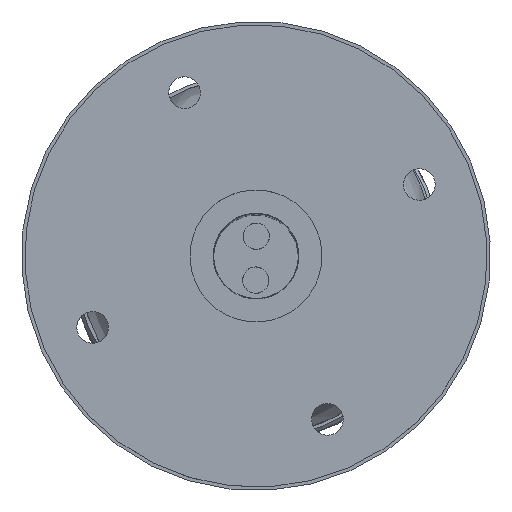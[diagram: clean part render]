
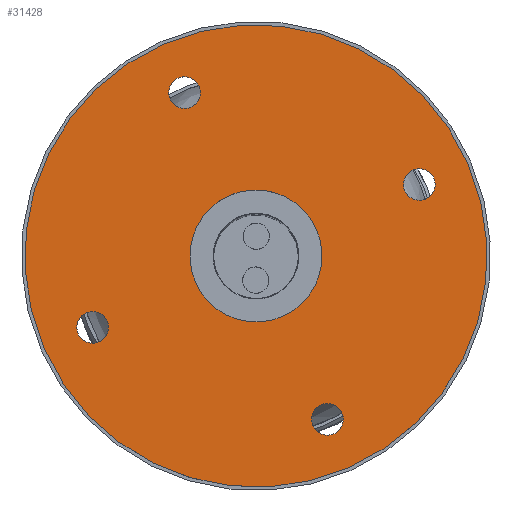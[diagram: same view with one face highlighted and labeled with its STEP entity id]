
A CAD part, top view. The second image highlights one B-rep face of the part: STEP entity #31428.
In plain terms, the highlighted planar face has unit normal (0, 0, 1).
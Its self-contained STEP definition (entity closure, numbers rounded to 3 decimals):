
#277 = CIRCLE ( 'NONE', #338, 10. ) ;
#338 = AXIS2_PLACEMENT_3D ( 'NONE', #12075, #31240, #14814 ) ;
#1016 = VERTEX_POINT ( 'NONE', #31309 ) ;
#2110 = AXIS2_PLACEMENT_3D ( 'NONE', #10416, #29560, #13165 ) ;
#2754 = EDGE_CURVE ( 'NONE', #33958, #33958, #5357, .T. ) ;
#3157 = ORIENTED_EDGE ( 'NONE', *, *, #2754, .T. ) ;
#3402 = FACE_BOUND ( 'NONE', #20233, .T. ) ;
#3793 = EDGE_CURVE ( 'NONE', #12099, #12099, #7102, .T. ) ;
#3824 = ORIENTED_EDGE ( 'NONE', *, *, #23792, .T. ) ;
#4054 = CARTESIAN_POINT ( 'NONE',  ( 1.113, 6.01, 48. ) ) ;
#4279 = CARTESIAN_POINT ( 'NONE',  ( 24.888, 19.03, 48. ) ) ;
#5019 = EDGE_LOOP ( 'NONE', ( #26158 ) ) ;
#5357 = CIRCLE ( 'NONE', #2110, 2.4 ) ;
#5590 = PLANE ( 'NONE',  #29878 ) ;
#6413 = CARTESIAN_POINT ( 'NONE',  ( 28.896, 9.869, 48. ) ) ;
#7005 = DIRECTION ( 'NONE',  ( 0.401, -0.916, 0. ) ) ;
#7102 = CIRCLE ( 'NONE', #34178, 35. ) ;
#7583 = EDGE_LOOP ( 'NONE', ( #3824 ) ) ;
#8320 = CARTESIAN_POINT ( 'NONE',  ( 24.888, 19.03, 48. ) ) ;
#8812 = CARTESIAN_POINT ( 'NONE',  ( 36.671, -7.905, 48. ) ) ;
#9139 = CARTESIAN_POINT ( 'NONE',  ( 14.066, 43.767, 48. ) ) ;
#9237 = AXIS2_PLACEMENT_3D ( 'NONE', #9139, #28277, #11864 ) ;
#9948 = VERTEX_POINT ( 'NONE', #33938 ) ;
#10416 = CARTESIAN_POINT ( 'NONE',  ( 35.71, -5.706, 48. ) ) ;
#10446 = DIRECTION ( 'NONE',  ( 0., 0., -1. ) ) ;
#10624 = FACE_BOUND ( 'NONE', #7583, .T. ) ;
#11074 = DIRECTION ( 'NONE',  ( 0.401, -0.916, 0. ) ) ;
#11864 = DIRECTION ( 'NONE',  ( 0.401, -0.916, 0. ) ) ;
#11879 = CIRCLE ( 'NONE', #9237, 2.4 ) ;
#12075 = CARTESIAN_POINT ( 'NONE',  ( 24.888, 19.03, 48. ) ) ;
#12099 = VERTEX_POINT ( 'NONE', #30709 ) ;
#13165 = DIRECTION ( 'NONE',  ( 0.401, -0.916, 0. ) ) ;
#13378 = VERTEX_POINT ( 'NONE', #6413 ) ;
#14004 = AXIS2_PLACEMENT_3D ( 'NONE', #26822, #10446, #29585 ) ;
#14480 = DIRECTION ( 'NONE',  ( 0., 0., -1. ) ) ;
#14680 = EDGE_CURVE ( 'NONE', #13378, #13378, #277, .T. ) ;
#14814 = DIRECTION ( 'NONE',  ( 0.401, -0.916, 0. ) ) ;
#16575 = EDGE_LOOP ( 'NONE', ( #17537 ) ) ;
#16683 = ORIENTED_EDGE ( 'NONE', *, *, #25442, .T. ) ;
#17537 = ORIENTED_EDGE ( 'NONE', *, *, #14680, .T. ) ;
#17881 = FACE_BOUND ( 'NONE', #28084, .T. ) ;
#20233 = EDGE_LOOP ( 'NONE', ( #3157 ) ) ;
#20968 = EDGE_CURVE ( 'NONE', #9948, #9948, #32994, .T. ) ;
#22889 = CIRCLE ( 'NONE', #28317, 2.4 ) ;
#23369 = DIRECTION ( 'NONE',  ( 0., 0., -1. ) ) ;
#23792 = EDGE_CURVE ( 'NONE', #1016, #1016, #11879, .T. ) ;
#24505 = EDGE_LOOP ( 'NONE', ( #16683 ) ) ;
#25187 = FACE_BOUND ( 'NONE', #16575, .T. ) ;
#25442 = EDGE_CURVE ( 'NONE', #28355, #28355, #22889, .T. ) ;
#26158 = ORIENTED_EDGE ( 'NONE', *, *, #3793, .F. ) ;
#26822 = CARTESIAN_POINT ( 'NONE',  ( 49.624, 29.852, 48. ) ) ;
#27458 = DIRECTION ( 'NONE',  ( 0., 0., -1. ) ) ;
#28084 = EDGE_LOOP ( 'NONE', ( #30093 ) ) ;
#28277 = DIRECTION ( 'NONE',  ( 0., 0., -1. ) ) ;
#28317 = AXIS2_PLACEMENT_3D ( 'NONE', #30920, #14480, #33639 ) ;
#28355 = VERTEX_POINT ( 'NONE', #4054 ) ;
#29560 = DIRECTION ( 'NONE',  ( 0., 0., -1. ) ) ;
#29585 = DIRECTION ( 'NONE',  ( 0.401, -0.916, 0. ) ) ;
#29878 = AXIS2_PLACEMENT_3D ( 'NONE', #8320, #27458, #11074 ) ;
#30093 = ORIENTED_EDGE ( 'NONE', *, *, #20968, .T. ) ;
#30709 = CARTESIAN_POINT ( 'NONE',  ( 38.916, -13.035, 48. ) ) ;
#30920 = CARTESIAN_POINT ( 'NONE',  ( 0.151, 8.208, 48. ) ) ;
#31240 = DIRECTION ( 'NONE',  ( 0., 0., -1. ) ) ;
#31309 = CARTESIAN_POINT ( 'NONE',  ( 15.027, 41.568, 48. ) ) ;
#31428 = ADVANCED_FACE ( 'NONE', ( #10624, #25187, #32481, #17881, #3402, #31600 ), #5590, .F. ) ;
#31600 = FACE_BOUND ( 'NONE', #24505, .T. ) ;
#32481 = FACE_OUTER_BOUND ( 'NONE', #5019, .T. ) ;
#32994 = CIRCLE ( 'NONE', #14004, 2.4 ) ;
#33639 = DIRECTION ( 'NONE',  ( 0.401, -0.916, 0. ) ) ;
#33938 = CARTESIAN_POINT ( 'NONE',  ( 50.586, 27.654, 48. ) ) ;
#33958 = VERTEX_POINT ( 'NONE', #8812 ) ;
#34178 = AXIS2_PLACEMENT_3D ( 'NONE', #4279, #23369, #7005 ) ;
